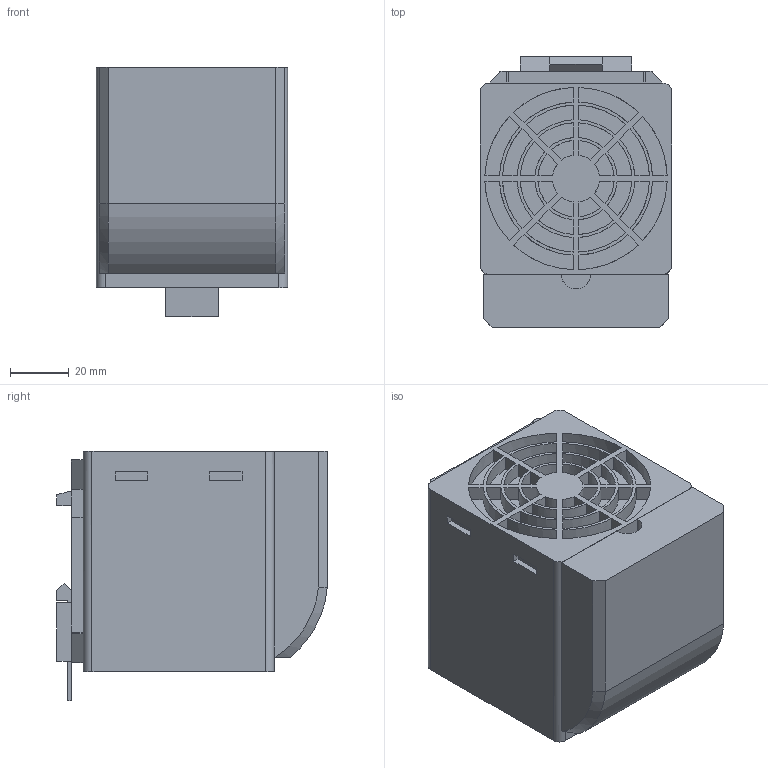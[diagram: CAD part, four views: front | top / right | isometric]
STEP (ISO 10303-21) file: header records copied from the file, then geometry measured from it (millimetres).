
FILE_DESCRIPTION(/* description */ (''),/* implementation_level */ '2;1');
FILE_NAME(/* name */ 'SQ0832~1',/* time_stamp */ '2024-07-09T07:58:44+03:00',/* author */ (''),/* organization */ (''),/* preprocessor_version */ 'ST-DEVELOPER v16.5',/* originating_system */ '',/* authorisation */ '');
FILE_SCHEMA (('CONFIG_CONTROL_DESIGN'));
Length unit declared in the file: millimetre
Products named in the file (1): Document
Bounding box: 65 x 92 x 84.89 mm (x, y, z)
Volume: 387096 mm3; surface area: 55205.6 mm2
Topology: 3 solids, 3 shells, 532 faces, 1324 edges, 894 vertices
Faces by surface type: plane 454, cylinder 76, bspline 2
Entity records: 13720 total; most frequent: CARTESIAN_POINT 4305, ORIENTED_EDGE 2614, EDGE_CURVE 1307, B_SPLINE_CURVE_WITH_KNOTS 1160, VERTEX_POINT 868, EDGE_LOOP 621, DIRECTION 536, AXIS2_PLACEMENT_3D 533
